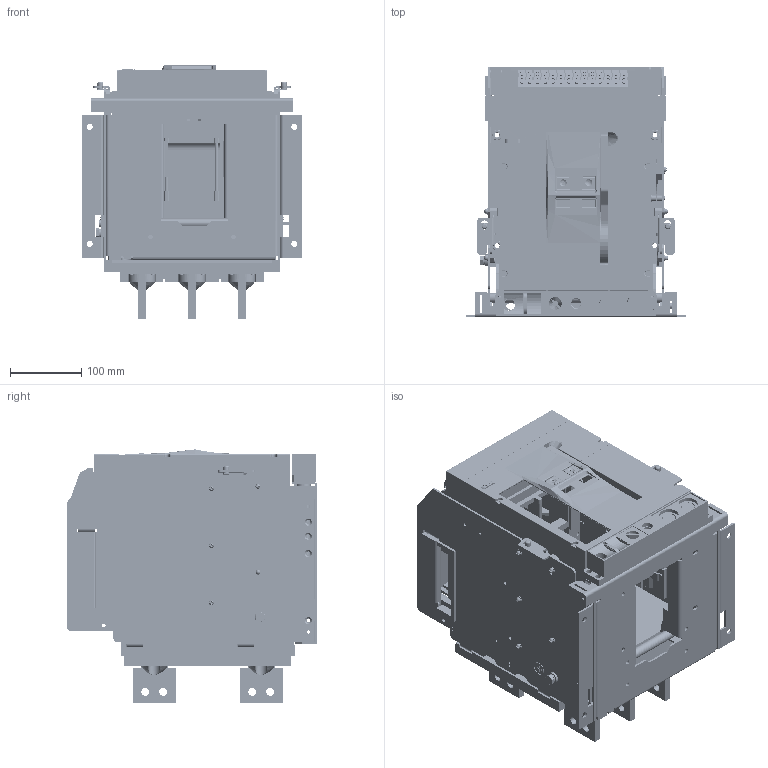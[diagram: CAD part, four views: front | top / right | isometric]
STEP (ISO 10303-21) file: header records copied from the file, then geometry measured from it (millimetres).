
FILE_DESCRIPTION((''),'2;1');
FILE_NAME('NA8G-1600-1000-DO-3P-V_ASM','2019-05-21T16:56:47',('lcc'),(''),'CREO PARAMETRIC BY PTC INC, 2018020','CREO PARAMETRIC BY PTC INC, 2018020','');
FILE_SCHEMA(('CONFIG_CONTROL_DESIGN','SHAPE_APPEARANCE_LAYERS_GROUPS'));
Products named in the file (55): 8-024-504; 8-300-164; 8-141-125; 8-860-349; 8-441-081; 8-200-099; 8-236-064; 5-203-058_ASM; 8-145-063; 8-211-092; 5-024-172_ASM; 8-050-244; 8-960-058; 8-960-056; 8-960-057; 8-960-060; 8-960-059; 8-127-020; 8-125-057; 8-123-120; 8-261-001; 8-125-001; 8-210-176; 5-124-010_ASM; 8-233-301; GBT97_1-4; GBT93-4; GBT818-M4X10; GBT845-ST4_2X9_5C; GBT6170-M8; 5-050-095_ASM; 8-050-243; 8-261-002; 8-125-002; 5-124-011_ASM; GBT97_1-8; GBT93-8; GBT5783-M8X16; 5-050-096_ASM; 8-300-166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
Assembly tree (108 placements, depth 4):
  NA8G-1600-1000-DO-3P-V_ASM
    5-024-172_ASM
      8-024-504
      8-300-164
      8-141-125
      8-860-349
      8-441-081
      5-203-058_ASM
        8-200-099
        8-236-064  x2
      8-145-063  x2
      8-211-092
    5-050-095_ASM
      8-050-244
      8-960-058
      8-960-056
      8-960-057
      8-960-060
      8-960-059
      8-127-020
      8-125-057
      8-123-120
      5-124-010_ASM
        8-261-001
        8-125-001
        8-210-176
      8-233-301
      GBT97_1-4  x5
      GBT93-4  x5
      GBT818-M4X10  x5
      GBT845-ST4_2X9_5C
      GBT6170-M8  x2
    5-050-096_ASM
      8-050-243
      8-125-057
      8-123-120
      5-124-011_ASM
        8-261-002
        8-125-002
        8-210-176
      GBT6170-M8  x2
      GBT97_1-4  x5
      GBT93-4  x5
      GBT818-M4X10  x5
      GBT97_1-8  x2
      GBT93-8
      GBT5783-M8X16
    8-300-166
    8-015-021
    8ZTD-043-780
    8ZTD-043-781
    8-300-162-2
    8-253-348
    8-253-349
    8-253-309
    5-235-147
    1600-DIJIA-3P
    1600-DUANZI-CTS_ASM
      8ZTD-064-138
      8ZTD-024-689  x14
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Bounding box: 308 x 351 x 355 mm (x, y, z)
Volume: 6743180.3 mm3; surface area: 1911255.1 mm2
Topology: 101 solids, 147 shells, 7102 faces, 19416 edges, 12764 vertices
Faces by surface type: plane 5206, cylinder 1645, cone 102, bspline 74, torus 42, sphere 32, extrusion 1
Entity records: 174567 total; most frequent: CARTESIAN_POINT 26709, ORIENTED_EDGE 24108, DIRECTION 23718, EDGE_CURVE 12065, PRESENTATION_STYLE_ASSIGNMENT 10150, STYLED_ITEM 10110, CURVE_STYLE 9985, VECTOR 9314
